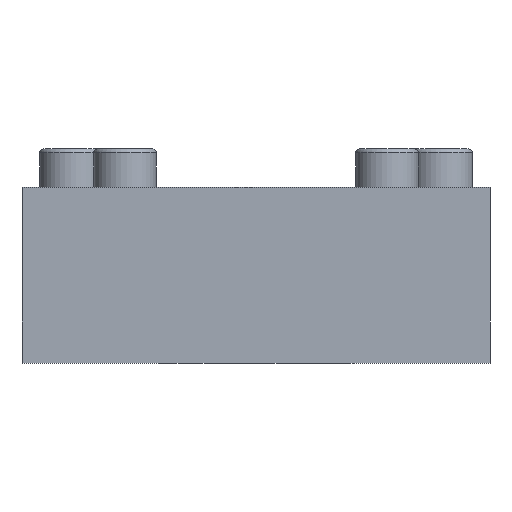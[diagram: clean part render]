
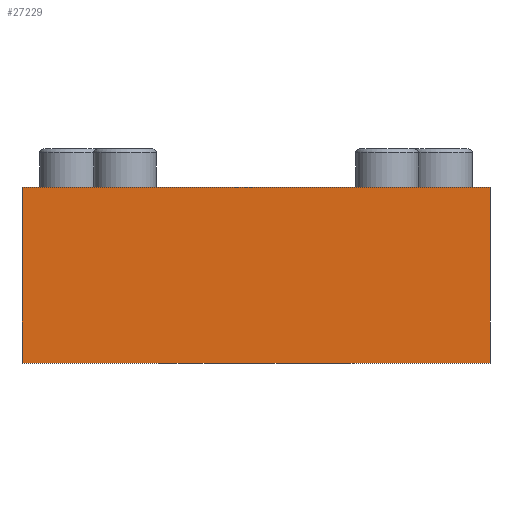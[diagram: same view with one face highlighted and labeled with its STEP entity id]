
A CAD part, front view. The second image highlights one B-rep face of the part: STEP entity #27229.
In plain terms, the highlighted planar face has unit normal (0, -1, 0).
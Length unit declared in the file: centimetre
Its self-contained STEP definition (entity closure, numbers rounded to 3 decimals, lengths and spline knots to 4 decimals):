
#4118=FACE_OUTER_BOUND('',#5659,.T.);
#5659=EDGE_LOOP('',(#24884,#24885,#24886,#24887));
#5669=LINE('',#33288,#8469);
#8455=LINE('',#45809,#11255);
#8460=LINE('',#45818,#11260);
#8461=LINE('',#45820,#11261);
#8469=VECTOR('',#28358,12.);
#11255=VECTOR('',#33218,4.506);
#11260=VECTOR('',#33227,4.506);
#11261=VECTOR('',#33230,12.);
#11340=VERTEX_POINT('',#33285);
#11341=VERTEX_POINT('',#33287);
#13798=VERTEX_POINT('',#45806);
#13801=VERTEX_POINT('',#45816);
#13824=EDGE_CURVE('',#11340,#11341,#5669,.T.);
#17493=EDGE_CURVE('',#13798,#11340,#8455,.T.);
#17498=EDGE_CURVE('',#13801,#11341,#8460,.T.);
#17499=EDGE_CURVE('',#13801,#13798,#8461,.T.);
#24884=ORIENTED_EDGE('',*,*,#17499,.F.);
#24885=ORIENTED_EDGE('',*,*,#17498,.T.);
#24886=ORIENTED_EDGE('',*,*,#13824,.F.);
#24887=ORIENTED_EDGE('',*,*,#17493,.F.);
#25849=PLANE('',#28297);
#27229=ADVANCED_FACE('',(#4118),#25849,.T.);
#28297=AXIS2_PLACEMENT_3D('',#45819,#33228,#33229);
#28358=DIRECTION('',(1.,0.,0.));
#33218=DIRECTION('',(0.,0.,1.));
#33227=DIRECTION('',(0.,0.,1.));
#33228=DIRECTION('center_axis',(0.,-1.,0.));
#33229=DIRECTION('ref_axis',(1.,0.,0.));
#33230=DIRECTION('',(-1.,0.,0.));
#33285=CARTESIAN_POINT('',(-6.,-27.5,4.506));
#33287=CARTESIAN_POINT('',(6.,-27.5,4.506));
#33288=CARTESIAN_POINT('',(-6.,-27.5,4.506));
#45806=CARTESIAN_POINT('',(-6.,-27.5,0.));
#45809=CARTESIAN_POINT('',(-6.,-27.5,0.));
#45816=CARTESIAN_POINT('',(6.,-27.5,0.));
#45818=CARTESIAN_POINT('',(6.,-27.5,0.));
#45819=CARTESIAN_POINT('Origin',(-6.,-27.5,0.));
#45820=CARTESIAN_POINT('',(6.,-27.5,0.));
